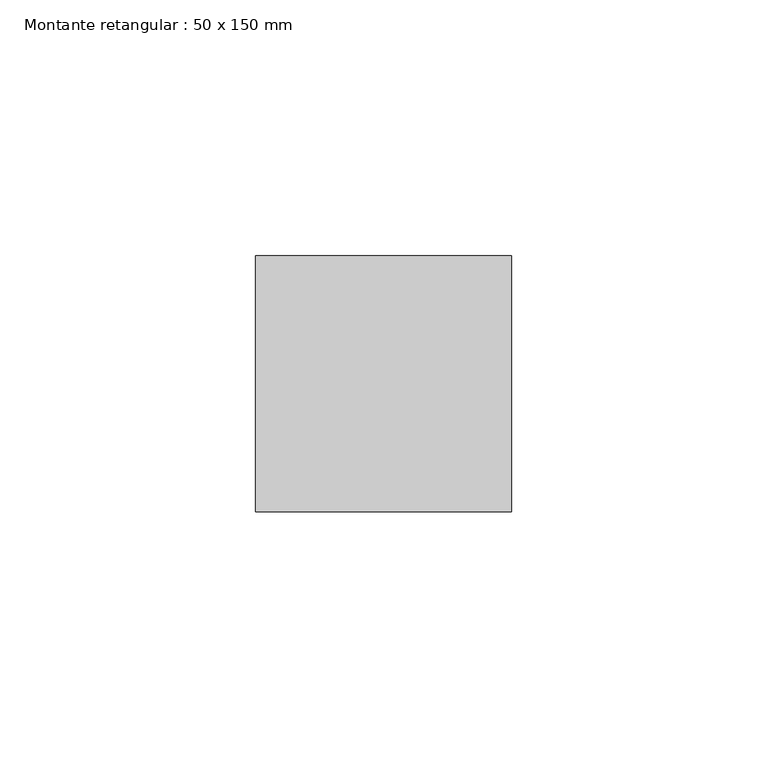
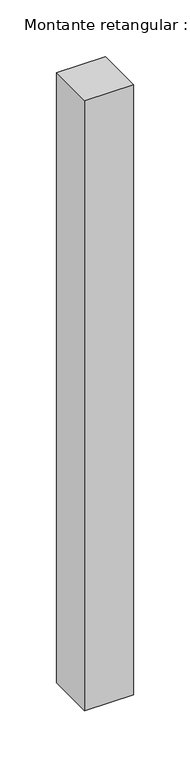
"""IFC4 building model written with IfcOpenShell, lengths in millimetres: member geometry, Montante retangular : 50 x 150 mm."""

from ifc_helpers import new_model, si_unit, frame, origin, place, context, project, spatial, polyline, outline, extrude, source, transform, mapped, element, save


def montante_retangular_50_x_150_mm_b39f0a83(model_context):
    return source(origin(), model_context, "Body", "SweptSolid", [
        extrude(outline(polyline([(0.0, 25.0), (0.0, -25.0), (-50.0, -25.0), (-50.0, 25.0), (0.0, 25.0)])), frame((0.0, 0.0, -659.0004578), z_axis=(0.0, 0.0, 1.0), x_axis=(1.0, 0.0, 0.0)), (0.0, 0.0, 1.0), 659.0004578),
    ])


if __name__ == "__main__":
    model = new_model("IFC4")
    model_context = context("Model", 3, world=origin())
    ifc_project = project(units=[si_unit("LENGTHUNIT", "METRE", prefix="MILLI")], contexts=[model_context])
    site = spatial("IfcSite", under=ifc_project)
    building = spatial("IfcBuilding", under=site)
    placement = place(None, origin())
    montante_retangular_50_x_150_mm_shape = montante_retangular_50_x_150_mm_b39f0a83(model_context)
    element("IfcMember", 1, ObjectType="Montante retangular : 50 x 150 mm", at=placement, inside=building, context=model_context, shape_type="MappedRepresentation", body=[
        mapped(montante_retangular_50_x_150_mm_shape, transform((0.0, 0.0, 0.0), x_axis=(1.0, 0.0, 0.0), y_axis=(0.0, 1.0, 0.0), z_axis=(0.0, 0.0, 1.0))),
    ])
    save(model, "model.ifc")
